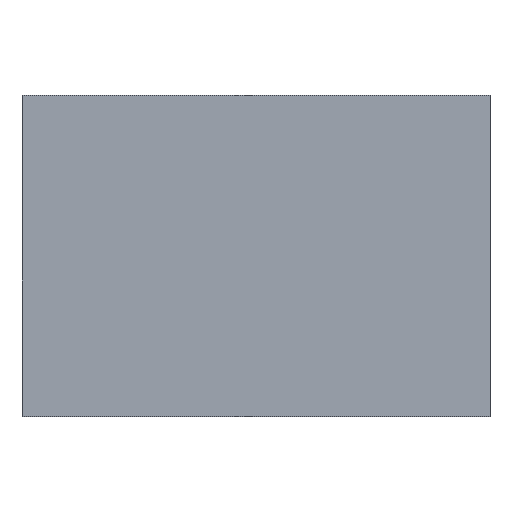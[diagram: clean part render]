
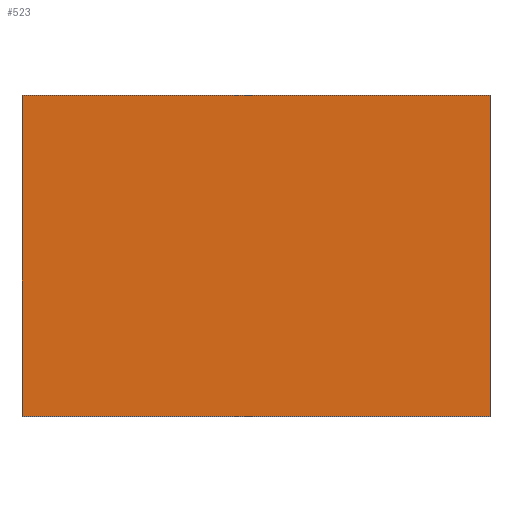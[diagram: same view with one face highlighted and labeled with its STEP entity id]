
A CAD part, top view. The second image highlights one B-rep face of the part: STEP entity #523.
In plain terms, the highlighted planar face has unit normal (0, 0, 1).
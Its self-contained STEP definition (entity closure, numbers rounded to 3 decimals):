
#82=FACE_OUTER_BOUND('',#115,.T.);
#115=EDGE_LOOP('',(#436,#437,#438,#439));
#160=LINE('',#852,#206);
#163=LINE('',#858,#209);
#166=LINE('',#864,#212);
#169=LINE('',#868,#215);
#206=VECTOR('',#714,10.);
#209=VECTOR('',#719,10.);
#212=VECTOR('',#724,10.);
#215=VECTOR('',#729,10.);
#254=VERTEX_POINT('',#849);
#255=VERTEX_POINT('',#851);
#257=VERTEX_POINT('',#857);
#259=VERTEX_POINT('',#863);
#316=EDGE_CURVE('',#255,#254,#160,.T.);
#319=EDGE_CURVE('',#257,#255,#163,.T.);
#322=EDGE_CURVE('',#259,#257,#166,.T.);
#325=EDGE_CURVE('',#254,#259,#169,.T.);
#436=ORIENTED_EDGE('',*,*,#325,.T.);
#437=ORIENTED_EDGE('',*,*,#322,.T.);
#438=ORIENTED_EDGE('',*,*,#319,.T.);
#439=ORIENTED_EDGE('',*,*,#316,.T.);
#472=PLANE('',#592);
#523=ADVANCED_FACE('',(#82),#472,.T.);
#592=AXIS2_PLACEMENT_3D('',#869,#730,#731);
#714=DIRECTION('',(1.,0.,0.));
#719=DIRECTION('',(0.,-1.,0.));
#724=DIRECTION('',(-1.,0.,0.));
#729=DIRECTION('',(0.,1.,0.));
#730=DIRECTION('center_axis',(0.,0.,1.));
#731=DIRECTION('ref_axis',(1.,0.,0.));
#849=CARTESIAN_POINT('',(350.,-240.,120.));
#851=CARTESIAN_POINT('',(-350.,-240.,120.));
#852=CARTESIAN_POINT('',(-350.,-240.,120.));
#857=CARTESIAN_POINT('',(-350.,240.,120.));
#858=CARTESIAN_POINT('',(-350.,240.,120.));
#863=CARTESIAN_POINT('',(350.,240.,120.));
#864=CARTESIAN_POINT('',(350.,240.,120.));
#868=CARTESIAN_POINT('',(350.,-240.,120.));
#869=CARTESIAN_POINT('Origin',(0.,0.,
120.));
